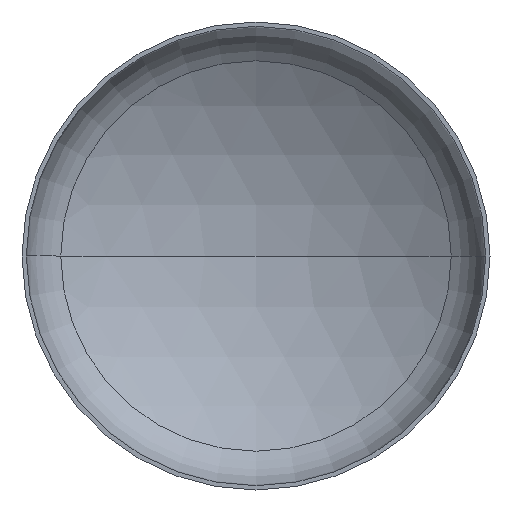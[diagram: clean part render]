
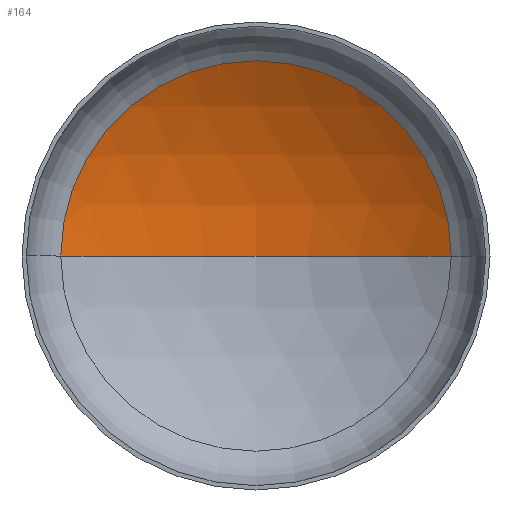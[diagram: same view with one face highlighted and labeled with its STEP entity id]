
A CAD part, front view. The second image highlights one B-rep face of the part: STEP entity #164.
In plain terms, the highlighted spherical face has radius 6400 mm.
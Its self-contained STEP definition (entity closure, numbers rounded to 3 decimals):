
#2 = EDGE_CURVE ( 'NONE', #30, #87, #361, .T. ) ;
#4 = EDGE_CURVE ( 'NONE', #30, #310, #251, .T. ) ;
#20 = ORIENTED_EDGE ( 'NONE', *, *, #399, .T. ) ;
#26 = ORIENTED_EDGE ( 'NONE', *, *, #2, .T. ) ;
#30 = VERTEX_POINT ( 'NONE', #329 ) ;
#43 = CARTESIAN_POINT ( 'NONE',  ( 0., 1169.522, 0. ) ) ;
#62 = ORIENTED_EDGE ( 'NONE', *, *, #4, .F. ) ;
#87 = VERTEX_POINT ( 'NONE', #157 ) ;
#88 = DIRECTION ( 'NONE',  ( 0., -1., 0. ) ) ;
#97 = EDGE_LOOP ( 'NONE', ( #62, #26, #20 ) ) ;
#120 = AXIS2_PLACEMENT_3D ( 'NONE', #43, #88, #288 ) ;
#157 = CARTESIAN_POINT ( 'NONE',  ( 3337.408, 1169.522, 0. ) ) ;
#164 = ADVANCED_FACE ( 'NONE', ( #347 ), #392, .F. ) ;
#179 = CARTESIAN_POINT ( 'NONE',  ( -3337.408, 1169.522, 0. ) ) ;
#190 = CARTESIAN_POINT ( 'NONE',  ( 0., -4291.404, 0. ) ) ;
#196 = AXIS2_PLACEMENT_3D ( 'NONE', #190, #377, #235 ) ;
#205 = DIRECTION ( 'NONE',  ( 1., 0., 0. ) ) ;
#228 = DIRECTION ( 'NONE',  ( 0., 0., 1. ) ) ;
#229 = CARTESIAN_POINT ( 'NONE',  ( 0., -4291.404, 0. ) ) ;
#232 = DIRECTION ( 'NONE',  ( -1., 0., 0. ) ) ;
#235 = DIRECTION ( 'NONE',  ( -1., 0., 0. ) ) ;
#251 = CIRCLE ( 'NONE', #287, 6400. ) ;
#273 = AXIS2_PLACEMENT_3D ( 'NONE', #274, #363, #232 ) ;
#274 = CARTESIAN_POINT ( 'NONE',  ( 0., -4291.404, 0. ) ) ;
#287 = AXIS2_PLACEMENT_3D ( 'NONE', #229, #228, #205 ) ;
#288 = DIRECTION ( 'NONE',  ( 1., 0., 0. ) ) ;
#290 = CIRCLE ( 'NONE', #120, 3337.408 ) ;
#310 = VERTEX_POINT ( 'NONE', #179 ) ;
#329 = CARTESIAN_POINT ( 'NONE',  ( 0., 2108.596, 0. ) ) ;
#347 = FACE_OUTER_BOUND ( 'NONE', #97, .T. ) ;
#361 = CIRCLE ( 'NONE', #273, 6400. ) ;
#363 = DIRECTION ( 'NONE',  ( 0., 0., -1. ) ) ;
#377 = DIRECTION ( 'NONE',  ( 0., 0., -1. ) ) ;
#392 = SPHERICAL_SURFACE ( 'NONE', #196, 6400. ) ;
#399 = EDGE_CURVE ( 'NONE', #87, #310, #290, .T. ) ;
